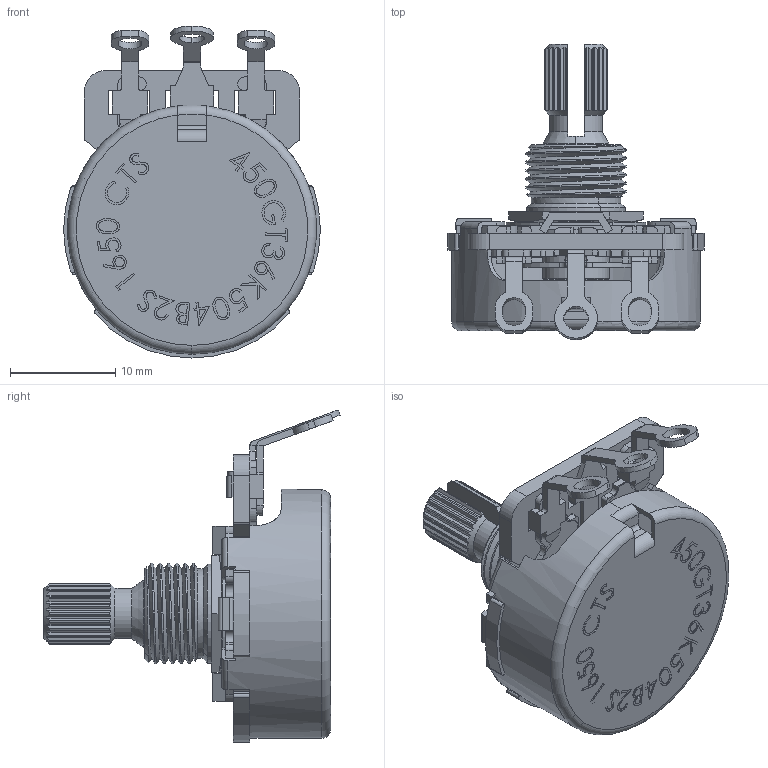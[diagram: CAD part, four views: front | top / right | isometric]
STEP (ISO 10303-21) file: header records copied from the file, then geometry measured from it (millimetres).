
FILE_DESCRIPTION (( 'STEP AP214' ), '1' );
FILE_NAME ('450GT25K254A4S.STEP', '2019-05-27T01:32:29', ( '' ), ( '' ), 'SwSTEP 2.0', 'SolidWorks 2019', '' );
FILE_SCHEMA (( 'AUTOMOTIVE_DESIGN' ));
Length unit declared in the file: millimetre
Products named in the file (10): 450A-104G; 450F-23 for T450AEDF; 450B-4; 45C-2Z-no lug; 450GT25K254A4S; 450 element; 450D-17 for T450AEDF; T450AEDF(For 104G); P45Q(stamp for 450GT36K504B2S)_Flat Bottom_45Q54 withFenderTradeMark_NewDetentSetting_07102012; 450S-DL-11888-20
Assembly tree (10 placements, depth 3):
  450GT25K254A4S
    P45Q(stamp for 450GT36K504B2S)_Flat Bottom_45Q54 withFenderTradeMark_NewDetentSetting_07102012
    T450AEDF(For 104G)
      450A-104G
      450D-17 for T450AEDF
      450 element
      450F-23 for T450AEDF  x2
    45C-2Z-no lug
    450B-4
    450S-DL-11888-20
Bounding box: 24.33 x 28.08 x 31.47 mm (x, y, z)
Volume: 2501.5 mm3; surface area: 6414.6 mm2
Topology: 9 solids, 9 shells, 1054 faces, 2937 edges, 1931 vertices
Faces by surface type: plane 609, cylinder 252, bspline 148, cone 27, torus 18
Entity records: 41676 total; most frequent: CARTESIAN_POINT 16767, ORIENTED_EDGE 5508, DIRECTION 4506, EDGE_CURVE 2754, VERTEX_POINT 1814, LINE 1686, VECTOR 1686, AXIS2_PLACEMENT_3D 1410
